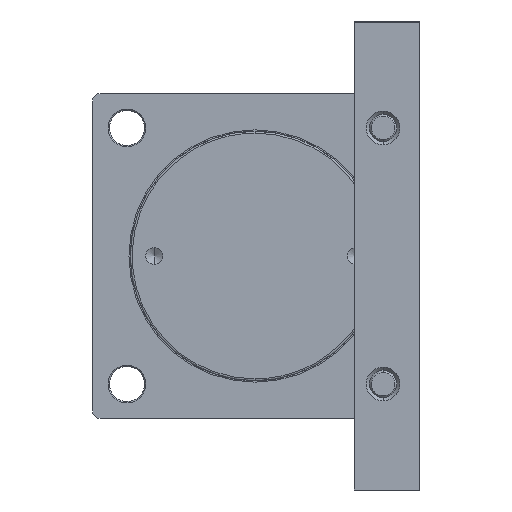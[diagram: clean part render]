
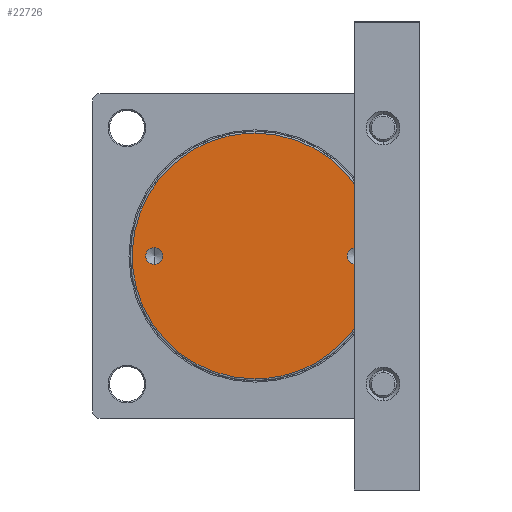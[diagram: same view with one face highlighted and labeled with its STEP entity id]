
A CAD part, left-side view. The second image highlights one B-rep face of the part: STEP entity #22726.
In plain terms, the highlighted planar face has unit normal (-1, 0, 0).
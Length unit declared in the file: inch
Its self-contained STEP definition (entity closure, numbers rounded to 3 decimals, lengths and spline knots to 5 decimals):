
#764 = VERTEX_POINT ( 'NONE', #20346 ) ;
#2253 = DIRECTION ( 'NONE',  ( 0., 0., 1. ) ) ;
#2289 = DIRECTION ( 'NONE',  ( -1., 0., 0. ) ) ;
#2306 = CARTESIAN_POINT ( 'NONE',  ( -1.43701, 3.05118, 0. ) ) ;
#2612 = VERTEX_POINT ( 'NONE', #9009 ) ;
#2987 = AXIS2_PLACEMENT_3D ( 'NONE', #9478, #9050, #8979 ) ;
#3897 = ORIENTED_EDGE ( 'NONE', *, *, #16314, .F. ) ;
#4032 = VERTEX_POINT ( 'NONE', #21706 ) ;
#4650 = VERTEX_POINT ( 'NONE', #8280 ) ;
#4697 = CARTESIAN_POINT ( 'NONE',  ( -1.43701, -3.05118, 0.25591 ) ) ;
#6218 = CIRCLE ( 'NONE', #21530, 0.25591 ) ;
#6814 = AXIS2_PLACEMENT_3D ( 'NONE', #9060, #9058, #9039 ) ;
#6860 =( BOUNDED_CURVE ( )  B_SPLINE_CURVE ( 3, ( #19796, #19457, #19169, #19110 ),
 .UNSPECIFIED., .F., .F. ) 
 B_SPLINE_CURVE_WITH_KNOTS ( ( 4, 4 ),
 ( 0., 1. ),
 .UNSPECIFIED. ) 
 CURVE ( )  GEOMETRIC_REPRESENTATION_ITEM ( )  RATIONAL_B_SPLINE_CURVE ( ( 1., 0.333, 0.333, 1. ) ) 
 REPRESENTATION_ITEM ( '' )  );
#6987 = ORIENTED_EDGE ( 'NONE', *, *, #21101, .F. ) ;
#7368 = EDGE_LOOP ( 'NONE', ( #10977, #12263 ) ) ;
#7828 = CIRCLE ( 'NONE', #19876, 0.25591 ) ;
#8280 = CARTESIAN_POINT ( 'NONE',  ( -1.43701, 0., -3.72047 ) ) ;
#8979 = DIRECTION ( 'NONE',  ( 0., 0., -1. ) ) ;
#9009 = CARTESIAN_POINT ( 'NONE',  ( -1.43701, -3.05118, -0.25591 ) ) ;
#9039 = DIRECTION ( 'NONE',  ( 0., 0., 1. ) ) ;
#9050 = DIRECTION ( 'NONE',  ( 1., 0., 0. ) ) ;
#9058 = DIRECTION ( 'NONE',  ( -1., 0., 0. ) ) ;
#9060 = CARTESIAN_POINT ( 'NONE',  ( -1.43701, 3.05118, 0. ) ) ;
#9157 = EDGE_LOOP ( 'NONE', ( #10004, #3897 ) ) ;
#9337 = CIRCLE ( 'NONE', #13900, 0.25591 ) ;
#9368 = PLANE ( 'NONE',  #2987 ) ;
#9478 = CARTESIAN_POINT ( 'NONE',  ( -1.43701, 0., 0. ) ) ;
#9746 = VERTEX_POINT ( 'NONE', #16633 ) ;
#10004 = ORIENTED_EDGE ( 'NONE', *, *, #21922, .F. ) ;
#10636 = EDGE_LOOP ( 'NONE', ( #6987, #16719 ) ) ;
#10977 = ORIENTED_EDGE ( 'NONE', *, *, #21660, .F. ) ;
#11363 = DIRECTION ( 'NONE',  ( 0., 0., 1. ) ) ;
#11378 = DIRECTION ( 'NONE',  ( -1., 0., 0. ) ) ;
#11413 = CARTESIAN_POINT ( 'NONE',  ( -1.43701, -3.05118, 0. ) ) ;
#11868 = FACE_BOUND ( 'NONE', #9157, .T. ) ;
#12263 = ORIENTED_EDGE ( 'NONE', *, *, #15564, .F. ) ;
#12880 =( BOUNDED_CURVE ( )  B_SPLINE_CURVE ( 3, ( #22639, #22668, #22482, #22404 ),
 .UNSPECIFIED., .F., .F. ) 
 B_SPLINE_CURVE_WITH_KNOTS ( ( 4, 4 ),
 ( 0., 1. ),
 .UNSPECIFIED. ) 
 CURVE ( )  GEOMETRIC_REPRESENTATION_ITEM ( )  RATIONAL_B_SPLINE_CURVE ( ( 1., 0.333, 0.333, 1. ) ) 
 REPRESENTATION_ITEM ( '' )  );
#13900 = AXIS2_PLACEMENT_3D ( 'NONE', #11413, #11378, #11363 ) ;
#15564 = EDGE_CURVE ( 'NONE', #2612, #23044, #6218, .T. ) ;
#16314 = EDGE_CURVE ( 'NONE', #764, #4032, #19958, .T. ) ;
#16633 = CARTESIAN_POINT ( 'NONE',  ( -1.43701, 0., 3.72047 ) ) ;
#16719 = ORIENTED_EDGE ( 'NONE', *, *, #21237, .F. ) ;
#17774 = DIRECTION ( 'NONE',  ( 0., 0., 1. ) ) ;
#17789 = DIRECTION ( 'NONE',  ( -1., 0., 0. ) ) ;
#17794 = CARTESIAN_POINT ( 'NONE',  ( -1.43701, -3.05118, 0. ) ) ;
#19110 = CARTESIAN_POINT ( 'NONE',  ( -1.43701, 0., -3.72047 ) ) ;
#19169 = CARTESIAN_POINT ( 'NONE',  ( -1.43701, -7.44094, -3.72047 ) ) ;
#19457 = CARTESIAN_POINT ( 'NONE',  ( -1.43701, -7.44094, 3.72047 ) ) ;
#19796 = CARTESIAN_POINT ( 'NONE',  ( -1.43701, 0., 3.72047 ) ) ;
#19876 = AXIS2_PLACEMENT_3D ( 'NONE', #2306, #2289, #2253 ) ;
#19958 = CIRCLE ( 'NONE', #6814, 0.25591 ) ;
#20346 = CARTESIAN_POINT ( 'NONE',  ( -1.43701, 3.05118, -0.25591 ) ) ;
#21101 = EDGE_CURVE ( 'NONE', #4650, #9746, #12880, .T. ) ;
#21237 = EDGE_CURVE ( 'NONE', #9746, #4650, #6860, .T. ) ;
#21530 = AXIS2_PLACEMENT_3D ( 'NONE', #17794, #17789, #17774 ) ;
#21660 = EDGE_CURVE ( 'NONE', #23044, #2612, #9337, .T. ) ;
#21706 = CARTESIAN_POINT ( 'NONE',  ( -1.43701, 3.05118, 0.25591 ) ) ;
#21922 = EDGE_CURVE ( 'NONE', #4032, #764, #7828, .T. ) ;
#22404 = CARTESIAN_POINT ( 'NONE',  ( -1.43701, 0., 3.72047 ) ) ;
#22482 = CARTESIAN_POINT ( 'NONE',  ( -1.43701, 7.44094, 3.72047 ) ) ;
#22639 = CARTESIAN_POINT ( 'NONE',  ( -1.43701, 0., -3.72047 ) ) ;
#22668 = CARTESIAN_POINT ( 'NONE',  ( -1.43701, 7.44094, -3.72047 ) ) ;
#22726 = ADVANCED_FACE ( 'NONE', ( #11868, #23174, #23085 ), #9368, .F. ) ;
#23044 = VERTEX_POINT ( 'NONE', #4697 ) ;
#23085 = FACE_OUTER_BOUND ( 'NONE', #10636, .T. ) ;
#23174 = FACE_BOUND ( 'NONE', #7368, .T. ) ;
